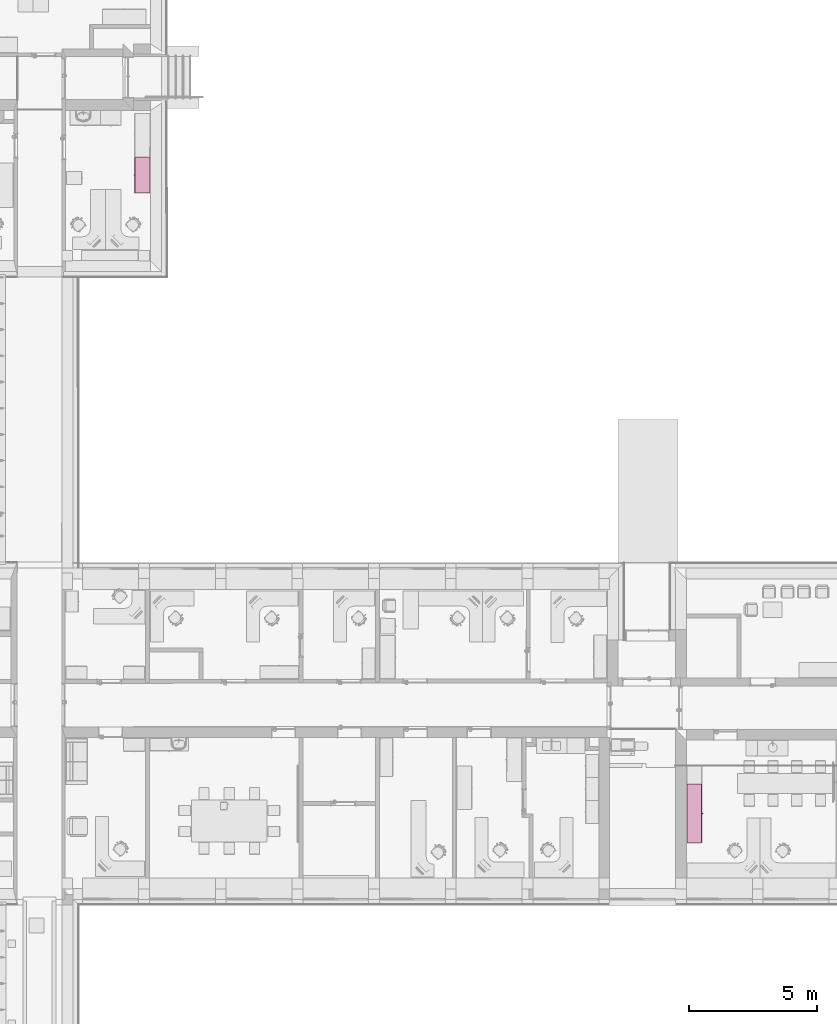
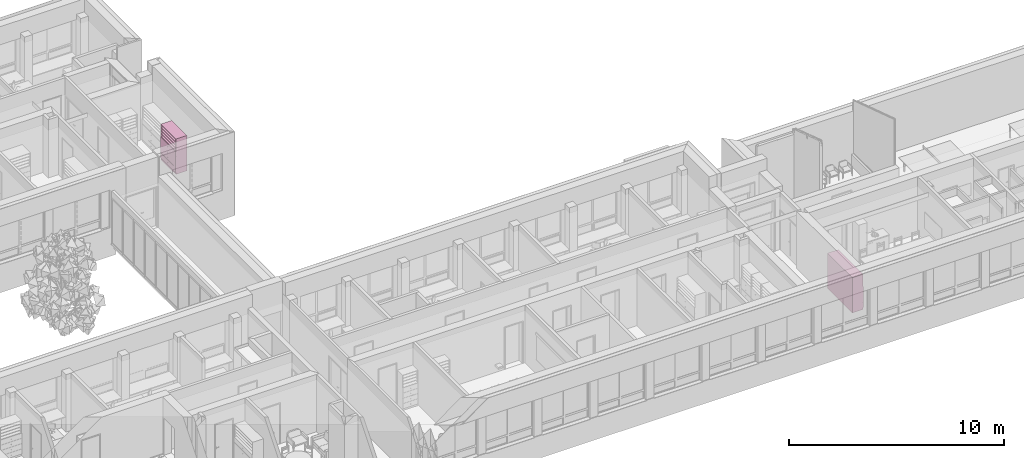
# One storey, part 171 of 194: 2 furnishings.
"""IFC2X3 building model written with IfcOpenShell, lengths in millimetres."""

from ifc_helpers import new_model, entity, si_unit, converted_unit, derived_unit, money_unit, direction, frame, origin_with_axes, place, context, subcontext, project, spatial, faceted_brep, type_object, element, save


model = new_model("IFC2X3")

# Units and contexts
model_context = context("Model", 3, precision=1e-05, world=origin_with_axes(), true_north=direction((0.0, 1.0)))
body_context = subcontext(model_context, "Body", "Model", "MODEL_VIEW")
ifc_project = project(units=[si_unit("LENGTHUNIT", "METRE", prefix="MILLI"), si_unit("AREAUNIT", "SQUARE_METRE"), si_unit("VOLUMEUNIT", "CUBIC_METRE"), converted_unit("PLANEANGLEUNIT", "DEGREE", entity("IfcPlaneAngleMeasure", 0.0174532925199), si_unit("PLANEANGLEUNIT", "RADIAN"), dimensions=[0, 0, 0, 0, 0, 0, 0]), si_unit("SOLIDANGLEUNIT", "STERADIAN"), money_unit("EUR"), converted_unit("TIMEUNIT", "Year", entity("IfcTimeMeasure", 31556926.0), si_unit("TIMEUNIT", "SECOND"), dimensions=[0, 0, 1, 0, 0, 0, 0]), si_unit("MASSUNIT", "GRAM", prefix="KILO"), si_unit("THERMODYNAMICTEMPERATUREUNIT", "DEGREE_CELSIUS"), si_unit("LUMINOUSINTENSITYUNIT", "LUMEN"), si_unit("ENERGYUNIT", "JOULE", prefix="MEGA"), derived_unit("THERMALCONDUCTANCEUNIT", [(si_unit("POWERUNIT", "WATT"), 1), (si_unit("LENGTHUNIT", "METRE"), -1), (si_unit("THERMODYNAMICTEMPERATUREUNIT", "KELVIN"), -1)]), derived_unit("SPECIFICHEATCAPACITYUNIT", [(si_unit("ENERGYUNIT", "JOULE"), 1), (si_unit("MASSUNIT", "GRAM", prefix="KILO"), -1), (si_unit("THERMODYNAMICTEMPERATUREUNIT", "KELVIN"), -1)]), derived_unit("MASSDENSITYUNIT", [(si_unit("MASSUNIT", "GRAM", prefix="KILO"), 1), (si_unit("VOLUMEUNIT", "CUBIC_METRE"), -1)])], contexts=[model_context])

# Site, building, storey
site_placement = place(None, origin_with_axes())
site = spatial("IfcSite", under=ifc_project, at=site_placement, Name="Site", CompositionType="ELEMENT")
building_placement = place(site_placement, origin_with_axes())
building = spatial("IfcBuilding", under=site, at=building_placement, Name="Building", CompositionType="ELEMENT")
storey_placement = place(building_placement, frame((0.0, 0.0, 3000.0), z_axis=(0.0, 0.0, 1.0), x_axis=(1.0, 0.0, 0.0)))
storey = spatial("IfcBuildingStorey", under=building, at=storey_placement, Name="2 KORRUS", CompositionType="ELEMENT", Elevation=3000.0)

# Furnishings
furnishing_element_type_1 = type_object("IfcFurnishingElementType", Name="Model Element 137")
furnishing_1_placement = place(storey_placement, frame((64775.9215281, 36561.5080874, 0.0), z_axis=(0.0, 0.0, 1.0), x_axis=(0.00064265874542, 0.999999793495, 0.0)))
element("IfcFurnishingElement", 1, at=furnishing_1_placement, inside=storey, type_object=furnishing_element_type_1, Name="FU - 001", context=body_context, shape_type="Brep", body=[
    faceted_brep([(2300.0, 19.0, 0.0), (0.0, 19.0, 0.0), (0.0, 599.894418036, 0.0), (2300.0, 599.894418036, 0.0), (2300.0, 19.0, 100.0), (0.0, 19.0, 100.0), (0.0, 599.894418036, 100.0), (2300.0, 599.894418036, 100.0)], [[[0, 1, 2, 3]], [[1, 0, 4, 5]], [[2, 1, 5, 6]], [[3, 2, 6, 7]], [[0, 3, 7, 4]], [[5, 4, 7, 6]]]),
    faceted_brep([(19.0, 599.894418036, 119.0), (19.0, 580.894418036, 119.0), (19.0, 580.894418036, 1981.0), (19.0, 599.894418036, 1981.0), (2281.0, 599.894418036, 119.0), (2281.0, 580.894418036, 119.0), (2281.0, 580.894418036, 1981.0), (2281.0, 599.894418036, 1981.0)], [[[0, 1, 2, 3]], [[0, 4, 5, 1]], [[1, 5, 6, 2]], [[3, 2, 6, 7]], [[4, 0, 3, 7]], [[5, 4, 7, 6]]]),
    faceted_brep([(2300.0, 19.0, 100.0), (2281.0, 19.0, 100.0), (2281.0, 599.894418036, 100.0), (2300.0, 599.894418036, 100.0), (2300.0, 19.0, 2000.0), (2281.0, 19.0, 2000.0), (2281.0, 599.894418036, 2000.0), (2300.0, 599.894418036, 2000.0)], [[[0, 1, 2, 3]], [[1, 0, 4, 5]], [[2, 1, 5, 6]], [[3, 2, 6, 7]], [[0, 3, 7, 4]], [[5, 4, 7, 6]]]),
    faceted_brep([(19.0, 19.0, 100.0), (0.0, 19.0, 100.0), (0.0, 599.894418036, 100.0), (19.0, 599.894418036, 100.0), (19.0, 19.0, 2000.0), (0.0, 19.0, 2000.0), (0.0, 599.894418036, 2000.0), (19.0, 599.894418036, 2000.0)], [[[0, 1, 2, 3]], [[1, 0, 4, 5]], [[2, 1, 5, 6]], [[3, 2, 6, 7]], [[0, 3, 7, 4]], [[5, 4, 7, 6]]]),
    faceted_brep([(2281.0, 19.0, 100.0), (19.0, 19.0, 100.0), (19.0, 599.894418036, 100.0), (2281.0, 599.894418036, 100.0), (2281.0, 19.0, 119.0), (19.0, 19.0, 119.0), (19.0, 599.894418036, 119.0), (2281.0, 599.894418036, 119.0)], [[[0, 1, 2, 3]], [[1, 0, 4, 5]], [[2, 1, 5, 6]], [[3, 2, 6, 7]], [[0, 3, 7, 4]], [[5, 4, 7, 6]]]),
    faceted_brep([(2281.0, 19.0, 1981.0), (19.0, 19.0, 1981.0), (19.0, 599.894418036, 1981.0), (2281.0, 599.894418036, 1981.0), (2281.0, 19.0, 2000.0), (19.0, 19.0, 2000.0), (19.0, 599.894418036, 2000.0), (2281.0, 599.894418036, 2000.0)], [[[0, 1, 2, 3]], [[1, 0, 4, 5]], [[2, 1, 5, 6]], [[3, 2, 6, 7]], [[0, 3, 7, 4]], [[5, 4, 7, 6]]]),
    faceted_brep([(5.0, 19.0, 105.0), (2295.0, 19.0, 105.0), (2295.0, 0.0, 105.0), (5.0, 0.0, 105.0), (5.0, 19.0, 395.0), (2295.0, 19.0, 395.0), (2295.0, 0.0, 395.0), (5.0, 0.0, 395.0)], [[[0, 1, 2, 3]], [[0, 4, 5, 1]], [[1, 5, 6, 2]], [[3, 2, 6, 7]], [[4, 0, 3, 7]], [[5, 4, 7, 6]]]),
    faceted_brep([(1160.39230485, 0.0, 244.0), (1156.0, 0.0, 239.607695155), (1150.0, 0.0, 238.0), (1144.0, 0.0, 239.607695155), (1139.60769515, 0.0, 244.0), (1138.0, 0.0, 250.0), (1139.60769515, 0.0, 256.0), (1144.0, 0.0, 260.392304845), (1150.0, 0.0, 262.0), (1156.0, 0.0, 260.392304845), (1160.39230485, 0.0, 256.0), (1162.0, 0.0, 250.0), (1160.39230485, -25.0, 244.0), (1156.0, -25.0, 239.607695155), (1150.0, -25.0, 238.0), (1144.0, -25.0, 239.607695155), (1139.60769515, -25.0, 244.0), (1138.0, -25.0, 250.0), (1139.60769515, -25.0, 256.0), (1144.0, -25.0, 260.392304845), (1150.0, -25.0, 262.0), (1156.0, -25.0, 260.392304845), (1160.39230485, -25.0, 256.0), (1162.0, -25.0, 250.0)], [[[0, 1, 2, 3, 4, 5, 6, 7, 8, 9, 10, 11]], [[1, 0, 12, 13]], [[2, 1, 13, 14]], [[3, 2, 14, 15]], [[4, 3, 15, 16]], [[5, 4, 16, 17]], [[6, 5, 17, 18]], [[7, 6, 18, 19]], [[8, 7, 19, 20]], [[9, 8, 20, 21]], [[10, 9, 21, 22]], [[11, 10, 22, 23]], [[0, 11, 23, 12]], [[12, 23, 22, 21, 20, 19, 18, 17, 16, 15, 14, 13]]]),
    faceted_brep([(5.0, 19.0, 405.0), (2295.0, 19.0, 405.0), (2295.0, 0.0, 405.0), (5.0, 0.0, 405.0), (5.0, 19.0, 695.0), (2295.0, 19.0, 695.0), (2295.0, 0.0, 695.0), (5.0, 0.0, 695.0)], [[[0, 1, 2, 3]], [[0, 4, 5, 1]], [[1, 5, 6, 2]], [[3, 2, 6, 7]], [[4, 0, 3, 7]], [[5, 4, 7, 6]]]),
    faceted_brep([(1160.39230485, 0.0, 544.0), (1156.0, 0.0, 539.607695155), (1150.0, 0.0, 538.0), (1144.0, 0.0, 539.607695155), (1139.60769515, 0.0, 544.0), (1138.0, 0.0, 550.0), (1139.60769515, 0.0, 556.0), (1144.0, 0.0, 560.392304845), (1150.0, 0.0, 562.0), (1156.0, 0.0, 560.392304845), (1160.39230485, 0.0, 556.0), (1162.0, 0.0, 550.0), (1160.39230485, -25.0, 544.0), (1156.0, -25.0, 539.607695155), (1150.0, -25.0, 538.0), (1144.0, -25.0, 539.607695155), (1139.60769515, -25.0, 544.0), (1138.0, -25.0, 550.0), (1139.60769515, -25.0, 556.0), (1144.0, -25.0, 560.392304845), (1150.0, -25.0, 562.0), (1156.0, -25.0, 560.392304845), (1160.39230485, -25.0, 556.0), (1162.0, -25.0, 550.0)], [[[0, 1, 2, 3, 4, 5, 6, 7, 8, 9, 10, 11]], [[1, 0, 12, 13]], [[2, 1, 13, 14]], [[3, 2, 14, 15]], [[4, 3, 15, 16]], [[5, 4, 16, 17]], [[6, 5, 17, 18]], [[7, 6, 18, 19]], [[8, 7, 19, 20]], [[9, 8, 20, 21]], [[10, 9, 21, 22]], [[11, 10, 22, 23]], [[0, 11, 23, 12]], [[12, 23, 22, 21, 20, 19, 18, 17, 16, 15, 14, 13]]]),
    faceted_brep([(5.0, 19.0, 705.0), (2295.0, 19.0, 705.0), (2295.0, 0.0, 705.0), (5.0, 0.0, 705.0), (5.0, 19.0, 995.0), (2295.0, 19.0, 995.0), (2295.0, 0.0, 995.0), (5.0, 0.0, 995.0)], [[[0, 1, 2, 3]], [[0, 4, 5, 1]], [[1, 5, 6, 2]], [[3, 2, 6, 7]], [[4, 0, 3, 7]], [[5, 4, 7, 6]]]),
    faceted_brep([(1160.39230485, 0.0, 844.0), (1156.0, 0.0, 839.607695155), (1150.0, 0.0, 838.0), (1144.0, 0.0, 839.607695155), (1139.60769515, 0.0, 844.0), (1138.0, 0.0, 850.0), (1139.60769515, 0.0, 856.0), (1144.0, 0.0, 860.392304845), (1150.0, 0.0, 862.0), (1156.0, 0.0, 860.392304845), (1160.39230485, 0.0, 856.0), (1162.0, 0.0, 850.0), (1160.39230485, -25.0, 844.0), (1156.0, -25.0, 839.607695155), (1150.0, -25.0, 838.0), (1144.0, -25.0, 839.607695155), (1139.60769515, -25.0, 844.0), (1138.0, -25.0, 850.0), (1139.60769515, -25.0, 856.0), (1144.0, -25.0, 860.392304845), (1150.0, -25.0, 862.0), (1156.0, -25.0, 860.392304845), (1160.39230485, -25.0, 856.0), (1162.0, -25.0, 850.0)], [[[0, 1, 2, 3, 4, 5, 6, 7, 8, 9, 10, 11]], [[1, 0, 12, 13]], [[2, 1, 13, 14]], [[3, 2, 14, 15]], [[4, 3, 15, 16]], [[5, 4, 16, 17]], [[6, 5, 17, 18]], [[7, 6, 18, 19]], [[8, 7, 19, 20]], [[9, 8, 20, 21]], [[10, 9, 21, 22]], [[11, 10, 22, 23]], [[0, 11, 23, 12]], [[12, 23, 22, 21, 20, 19, 18, 17, 16, 15, 14, 13]]]),
    faceted_brep([(5.0, 19.0, 1005.0), (2295.0, 19.0, 1005.0), (2295.0, 0.0, 1005.0), (5.0, 0.0, 1005.0), (5.0, 19.0, 1295.0), (2295.0, 19.0, 1295.0), (2295.0, 0.0, 1295.0), (5.0, 0.0, 1295.0)], [[[0, 1, 2, 3]], [[0, 4, 5, 1]], [[1, 5, 6, 2]], [[3, 2, 6, 7]], [[4, 0, 3, 7]], [[5, 4, 7, 6]]]),
    faceted_brep([(1160.39230485, 0.0, 1144.0), (1156.0, 0.0, 1139.60769515), (1150.0, 0.0, 1138.0), (1144.0, 0.0, 1139.60769515), (1139.60769515, 0.0, 1144.0), (1138.0, 0.0, 1150.0), (1139.60769515, 0.0, 1156.0), (1144.0, 0.0, 1160.39230485), (1150.0, 0.0, 1162.0), (1156.0, 0.0, 1160.39230485), (1160.39230485, 0.0, 1156.0), (1162.0, 0.0, 1150.0), (1160.39230485, -25.0, 1144.0), (1156.0, -25.0, 1139.60769515), (1150.0, -25.0, 1138.0), (1144.0, -25.0, 1139.60769515), (1139.60769515, -25.0, 1144.0), (1138.0, -25.0, 1150.0), (1139.60769515, -25.0, 1156.0), (1144.0, -25.0, 1160.39230485), (1150.0, -25.0, 1162.0), (1156.0, -25.0, 1160.39230485), (1160.39230485, -25.0, 1156.0), (1162.0, -25.0, 1150.0)], [[[0, 1, 2, 3, 4, 5, 6, 7, 8, 9, 10, 11]], [[1, 0, 12, 13]], [[2, 1, 13, 14]], [[3, 2, 14, 15]], [[4, 3, 15, 16]], [[5, 4, 16, 17]], [[6, 5, 17, 18]], [[7, 6, 18, 19]], [[8, 7, 19, 20]], [[9, 8, 20, 21]], [[10, 9, 21, 22]], [[11, 10, 22, 23]], [[0, 11, 23, 12]], [[12, 23, 22, 21, 20, 19, 18, 17, 16, 15, 14, 13]]]),
    faceted_brep([(19.0, 19.0, 390.5), (2281.0, 19.0, 390.5), (2281.0, 19.0, 409.5), (19.0, 19.0, 409.5), (19.0, 580.894418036, 390.5), (2281.0, 580.894418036, 390.5), (2281.0, 580.894418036, 409.5), (19.0, 580.894418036, 409.5)], [[[0, 1, 2, 3]], [[0, 4, 5, 1]], [[1, 5, 6, 2]], [[3, 2, 6, 7]], [[4, 0, 3, 7]], [[5, 4, 7, 6]]]),
    faceted_brep([(19.0, 19.0, 690.5), (2281.0, 19.0, 690.5), (2281.0, 19.0, 709.5), (19.0, 19.0, 709.5), (19.0, 580.894418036, 690.5), (2281.0, 580.894418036, 690.5), (2281.0, 580.894418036, 709.5), (19.0, 580.894418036, 709.5)], [[[0, 1, 2, 3]], [[0, 4, 5, 1]], [[1, 5, 6, 2]], [[3, 2, 6, 7]], [[4, 0, 3, 7]], [[5, 4, 7, 6]]]),
    faceted_brep([(19.0, 19.0, 990.5), (2281.0, 19.0, 990.5), (2281.0, 19.0, 1009.5), (19.0, 19.0, 1009.5), (19.0, 580.894418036, 990.5), (2281.0, 580.894418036, 990.5), (2281.0, 580.894418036, 1009.5), (19.0, 580.894418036, 1009.5)], [[[0, 1, 2, 3]], [[0, 4, 5, 1]], [[1, 5, 6, 2]], [[3, 2, 6, 7]], [[4, 0, 3, 7]], [[5, 4, 7, 6]]]),
    faceted_brep([(19.0, 19.0, 1290.5), (2281.0, 19.0, 1290.5), (2281.0, 19.0, 1309.5), (19.0, 19.0, 1309.5), (19.0, 580.894418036, 1290.5), (2281.0, 580.894418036, 1290.5), (2281.0, 580.894418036, 1309.5), (19.0, 580.894418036, 1309.5)], [[[0, 1, 2, 3]], [[0, 4, 5, 1]], [[1, 5, 6, 2]], [[3, 2, 6, 7]], [[4, 0, 3, 7]], [[5, 4, 7, 6]]]),
    faceted_brep([(2281.0, 19.0, 1463.125), (19.0, 19.0, 1463.125), (19.0, 580.894418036, 1463.125), (2281.0, 580.894418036, 1463.125), (2281.0, 19.0, 1482.125), (19.0, 19.0, 1482.125), (19.0, 580.894418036, 1482.125), (2281.0, 580.894418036, 1482.125)], [[[0, 1, 2, 3]], [[1, 0, 4, 5]], [[2, 1, 5, 6]], [[3, 2, 6, 7]], [[0, 3, 7, 4]], [[5, 4, 7, 6]]]),
    faceted_brep([(2281.0, 19.0, 1635.75), (19.0, 19.0, 1635.75), (19.0, 580.894418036, 1635.75), (2281.0, 580.894418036, 1635.75), (2281.0, 19.0, 1654.75), (19.0, 19.0, 1654.75), (19.0, 580.894418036, 1654.75), (2281.0, 580.894418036, 1654.75)], [[[0, 1, 2, 3]], [[1, 0, 4, 5]], [[2, 1, 5, 6]], [[3, 2, 6, 7]], [[0, 3, 7, 4]], [[5, 4, 7, 6]]]),
    faceted_brep([(2281.0, 19.0, 1808.375), (19.0, 19.0, 1808.375), (19.0, 580.894418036, 1808.375), (2281.0, 580.894418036, 1808.375), (2281.0, 19.0, 1827.375), (19.0, 19.0, 1827.375), (19.0, 580.894418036, 1827.375), (2281.0, 580.894418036, 1827.375)], [[[0, 1, 2, 3]], [[1, 0, 4, 5]], [[2, 1, 5, 6]], [[3, 2, 6, 7]], [[0, 3, 7, 4]], [[5, 4, 7, 6]]]),
])
furnishing_element_type_2 = type_object("IfcFurnishingElementType", Name="Model Element 42")
furnishing_2_placement = place(storey_placement, frame((42571.72021, 63381.1923782, 0.0), z_axis=(0.0, 0.0, 1.0), x_axis=(-0.00064265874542, -0.999999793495, 0.0)))
element("IfcFurnishingElement", 2, at=furnishing_2_placement, inside=storey, type_object=furnishing_element_type_2, Name="FU - 001", context=body_context, shape_type="Brep", body=[
    faceted_brep([(1400.0, 19.0, 0.0), (0.0, 19.0, 0.0), (0.0, 599.5931731, 0.0), (1400.0, 599.5931731, 0.0), (1400.0, 19.0, 100.0), (0.0, 19.0, 100.0), (0.0, 599.5931731, 100.0), (1400.0, 599.5931731, 100.0)], [[[0, 1, 2, 3]], [[1, 0, 4, 5]], [[2, 1, 5, 6]], [[3, 2, 6, 7]], [[0, 3, 7, 4]], [[5, 4, 7, 6]]]),
    faceted_brep([(19.0, 599.5931731, 119.0), (19.0, 580.5931731, 119.0), (19.0, 580.5931731, 1981.0), (19.0, 599.5931731, 1981.0), (1381.0, 599.5931731, 119.0), (1381.0, 580.5931731, 119.0), (1381.0, 580.5931731, 1981.0), (1381.0, 599.5931731, 1981.0)], [[[0, 1, 2, 3]], [[0, 4, 5, 1]], [[1, 5, 6, 2]], [[3, 2, 6, 7]], [[4, 0, 3, 7]], [[5, 4, 7, 6]]]),
    faceted_brep([(1400.0, 19.0, 100.0), (1381.0, 19.0, 100.0), (1381.0, 599.5931731, 100.0), (1400.0, 599.5931731, 100.0), (1400.0, 19.0, 2000.0), (1381.0, 19.0, 2000.0), (1381.0, 599.5931731, 2000.0), (1400.0, 599.5931731, 2000.0)], [[[0, 1, 2, 3]], [[1, 0, 4, 5]], [[2, 1, 5, 6]], [[3, 2, 6, 7]], [[0, 3, 7, 4]], [[5, 4, 7, 6]]]),
    faceted_brep([(19.0, 19.0, 100.0), (0.0, 19.0, 100.0), (0.0, 599.5931731, 100.0), (19.0, 599.5931731, 100.0), (19.0, 19.0, 2000.0), (0.0, 19.0, 2000.0), (0.0, 599.5931731, 2000.0), (19.0, 599.5931731, 2000.0)], [[[0, 1, 2, 3]], [[1, 0, 4, 5]], [[2, 1, 5, 6]], [[3, 2, 6, 7]], [[0, 3, 7, 4]], [[5, 4, 7, 6]]]),
    faceted_brep([(1381.0, 19.0, 100.0), (19.0, 19.0, 100.0), (19.0, 599.5931731, 100.0), (1381.0, 599.5931731, 100.0), (1381.0, 19.0, 119.0), (19.0, 19.0, 119.0), (19.0, 599.5931731, 119.0), (1381.0, 599.5931731, 119.0)], [[[0, 1, 2, 3]], [[1, 0, 4, 5]], [[2, 1, 5, 6]], [[3, 2, 6, 7]], [[0, 3, 7, 4]], [[5, 4, 7, 6]]]),
    faceted_brep([(1381.0, 19.0, 1981.0), (19.0, 19.0, 1981.0), (19.0, 599.5931731, 1981.0), (1381.0, 599.5931731, 1981.0), (1381.0, 19.0, 2000.0), (19.0, 19.0, 2000.0), (19.0, 599.5931731, 2000.0), (1381.0, 599.5931731, 2000.0)], [[[0, 1, 2, 3]], [[1, 0, 4, 5]], [[2, 1, 5, 6]], [[3, 2, 6, 7]], [[0, 3, 7, 4]], [[5, 4, 7, 6]]]),
    faceted_brep([(5.0, 19.0, 105.0), (1395.0, 19.0, 105.0), (1395.0, 0.0, 105.0), (5.0, 0.0, 105.0), (5.0, 19.0, 395.0), (1395.0, 19.0, 395.0), (1395.0, 0.0, 395.0), (5.0, 0.0, 395.0)], [[[0, 1, 2, 3]], [[0, 4, 5, 1]], [[1, 5, 6, 2]], [[3, 2, 6, 7]], [[4, 0, 3, 7]], [[5, 4, 7, 6]]]),
    faceted_brep([(710.392304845, 0.0, 244.0), (706.0, 0.0, 239.607695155), (700.0, 0.0, 238.0), (694.0, 0.0, 239.607695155), (689.607695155, 0.0, 244.0), (688.0, 0.0, 250.0), (689.607695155, 0.0, 256.0), (694.0, 0.0, 260.392304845), (700.0, 0.0, 262.0), (706.0, 0.0, 260.392304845), (710.392304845, 0.0, 256.0), (712.0, 0.0, 250.0), (710.392304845, -25.0, 244.0), (706.0, -25.0, 239.607695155), (700.0, -25.0, 238.0), (694.0, -25.0, 239.607695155), (689.607695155, -25.0, 244.0), (688.0, -25.0, 250.0), (689.607695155, -25.0, 256.0), (694.0, -25.0, 260.392304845), (700.0, -25.0, 262.0), (706.0, -25.0, 260.392304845), (710.392304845, -25.0, 256.0), (712.0, -25.0, 250.0)], [[[0, 1, 2, 3, 4, 5, 6, 7, 8, 9, 10, 11]], [[1, 0, 12, 13]], [[2, 1, 13, 14]], [[3, 2, 14, 15]], [[4, 3, 15, 16]], [[5, 4, 16, 17]], [[6, 5, 17, 18]], [[7, 6, 18, 19]], [[8, 7, 19, 20]], [[9, 8, 20, 21]], [[10, 9, 21, 22]], [[11, 10, 22, 23]], [[0, 11, 23, 12]], [[12, 23, 22, 21, 20, 19, 18, 17, 16, 15, 14, 13]]]),
    faceted_brep([(5.0, 19.0, 405.0), (1395.0, 19.0, 405.0), (1395.0, 0.0, 405.0), (5.0, 0.0, 405.0), (5.0, 19.0, 695.0), (1395.0, 19.0, 695.0), (1395.0, 0.0, 695.0), (5.0, 0.0, 695.0)], [[[0, 1, 2, 3]], [[0, 4, 5, 1]], [[1, 5, 6, 2]], [[3, 2, 6, 7]], [[4, 0, 3, 7]], [[5, 4, 7, 6]]]),
    faceted_brep([(710.392304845, 0.0, 544.0), (706.0, 0.0, 539.607695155), (700.0, 0.0, 538.0), (694.0, 0.0, 539.607695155), (689.607695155, 0.0, 544.0), (688.0, 0.0, 550.0), (689.607695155, 0.0, 556.0), (694.0, 0.0, 560.392304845), (700.0, 0.0, 562.0), (706.0, 0.0, 560.392304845), (710.392304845, 0.0, 556.0), (712.0, 0.0, 550.0), (710.392304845, -25.0, 544.0), (706.0, -25.0, 539.607695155), (700.0, -25.0, 538.0), (694.0, -25.0, 539.607695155), (689.607695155, -25.0, 544.0), (688.0, -25.0, 550.0), (689.607695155, -25.0, 556.0), (694.0, -25.0, 560.392304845), (700.0, -25.0, 562.0), (706.0, -25.0, 560.392304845), (710.392304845, -25.0, 556.0), (712.0, -25.0, 550.0)], [[[0, 1, 2, 3, 4, 5, 6, 7, 8, 9, 10, 11]], [[1, 0, 12, 13]], [[2, 1, 13, 14]], [[3, 2, 14, 15]], [[4, 3, 15, 16]], [[5, 4, 16, 17]], [[6, 5, 17, 18]], [[7, 6, 18, 19]], [[8, 7, 19, 20]], [[9, 8, 20, 21]], [[10, 9, 21, 22]], [[11, 10, 22, 23]], [[0, 11, 23, 12]], [[12, 23, 22, 21, 20, 19, 18, 17, 16, 15, 14, 13]]]),
    faceted_brep([(5.0, 19.0, 705.0), (1395.0, 19.0, 705.0), (1395.0, 0.0, 705.0), (5.0, 0.0, 705.0), (5.0, 19.0, 995.0), (1395.0, 19.0, 995.0), (1395.0, 0.0, 995.0), (5.0, 0.0, 995.0)], [[[0, 1, 2, 3]], [[0, 4, 5, 1]], [[1, 5, 6, 2]], [[3, 2, 6, 7]], [[4, 0, 3, 7]], [[5, 4, 7, 6]]]),
    faceted_brep([(710.392304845, 0.0, 844.0), (706.0, 0.0, 839.607695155), (700.0, 0.0, 838.0), (694.0, 0.0, 839.607695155), (689.607695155, 0.0, 844.0), (688.0, 0.0, 850.0), (689.607695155, 0.0, 856.0), (694.0, 0.0, 860.392304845), (700.0, 0.0, 862.0), (706.0, 0.0, 860.392304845), (710.392304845, 0.0, 856.0), (712.0, 0.0, 850.0), (710.392304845, -25.0, 844.0), (706.0, -25.0, 839.607695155), (700.0, -25.0, 838.0), (694.0, -25.0, 839.607695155), (689.607695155, -25.0, 844.0), (688.0, -25.0, 850.0), (689.607695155, -25.0, 856.0), (694.0, -25.0, 860.392304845), (700.0, -25.0, 862.0), (706.0, -25.0, 860.392304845), (710.392304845, -25.0, 856.0), (712.0, -25.0, 850.0)], [[[0, 1, 2, 3, 4, 5, 6, 7, 8, 9, 10, 11]], [[1, 0, 12, 13]], [[2, 1, 13, 14]], [[3, 2, 14, 15]], [[4, 3, 15, 16]], [[5, 4, 16, 17]], [[6, 5, 17, 18]], [[7, 6, 18, 19]], [[8, 7, 19, 20]], [[9, 8, 20, 21]], [[10, 9, 21, 22]], [[11, 10, 22, 23]], [[0, 11, 23, 12]], [[12, 23, 22, 21, 20, 19, 18, 17, 16, 15, 14, 13]]]),
    faceted_brep([(5.0, 19.0, 1005.0), (1395.0, 19.0, 1005.0), (1395.0, 0.0, 1005.0), (5.0, 0.0, 1005.0), (5.0, 19.0, 1295.0), (1395.0, 19.0, 1295.0), (1395.0, 0.0, 1295.0), (5.0, 0.0, 1295.0)], [[[0, 1, 2, 3]], [[0, 4, 5, 1]], [[1, 5, 6, 2]], [[3, 2, 6, 7]], [[4, 0, 3, 7]], [[5, 4, 7, 6]]]),
    faceted_brep([(710.392304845, 0.0, 1144.0), (706.0, 0.0, 1139.60769515), (700.0, 0.0, 1138.0), (694.0, 0.0, 1139.60769515), (689.607695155, 0.0, 1144.0), (688.0, 0.0, 1150.0), (689.607695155, 0.0, 1156.0), (694.0, 0.0, 1160.39230485), (700.0, 0.0, 1162.0), (706.0, 0.0, 1160.39230485), (710.392304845, 0.0, 1156.0), (712.0, 0.0, 1150.0), (710.392304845, -25.0, 1144.0), (706.0, -25.0, 1139.60769515), (700.0, -25.0, 1138.0), (694.0, -25.0, 1139.60769515), (689.607695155, -25.0, 1144.0), (688.0, -25.0, 1150.0), (689.607695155, -25.0, 1156.0), (694.0, -25.0, 1160.39230485), (700.0, -25.0, 1162.0), (706.0, -25.0, 1160.39230485), (710.392304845, -25.0, 1156.0), (712.0, -25.0, 1150.0)], [[[0, 1, 2, 3, 4, 5, 6, 7, 8, 9, 10, 11]], [[1, 0, 12, 13]], [[2, 1, 13, 14]], [[3, 2, 14, 15]], [[4, 3, 15, 16]], [[5, 4, 16, 17]], [[6, 5, 17, 18]], [[7, 6, 18, 19]], [[8, 7, 19, 20]], [[9, 8, 20, 21]], [[10, 9, 21, 22]], [[11, 10, 22, 23]], [[0, 11, 23, 12]], [[12, 23, 22, 21, 20, 19, 18, 17, 16, 15, 14, 13]]]),
    faceted_brep([(19.0, 19.0, 390.5), (1381.0, 19.0, 390.5), (1381.0, 19.0, 409.5), (19.0, 19.0, 409.5), (19.0, 580.5931731, 390.5), (1381.0, 580.5931731, 390.5), (1381.0, 580.5931731, 409.5), (19.0, 580.5931731, 409.5)], [[[0, 1, 2, 3]], [[0, 4, 5, 1]], [[1, 5, 6, 2]], [[3, 2, 6, 7]], [[4, 0, 3, 7]], [[5, 4, 7, 6]]]),
    faceted_brep([(19.0, 19.0, 690.5), (1381.0, 19.0, 690.5), (1381.0, 19.0, 709.5), (19.0, 19.0, 709.5), (19.0, 580.5931731, 690.5), (1381.0, 580.5931731, 690.5), (1381.0, 580.5931731, 709.5), (19.0, 580.5931731, 709.5)], [[[0, 1, 2, 3]], [[0, 4, 5, 1]], [[1, 5, 6, 2]], [[3, 2, 6, 7]], [[4, 0, 3, 7]], [[5, 4, 7, 6]]]),
    faceted_brep([(19.0, 19.0, 990.5), (1381.0, 19.0, 990.5), (1381.0, 19.0, 1009.5), (19.0, 19.0, 1009.5), (19.0, 580.5931731, 990.5), (1381.0, 580.5931731, 990.5), (1381.0, 580.5931731, 1009.5), (19.0, 580.5931731, 1009.5)], [[[0, 1, 2, 3]], [[0, 4, 5, 1]], [[1, 5, 6, 2]], [[3, 2, 6, 7]], [[4, 0, 3, 7]], [[5, 4, 7, 6]]]),
    faceted_brep([(19.0, 19.0, 1290.5), (1381.0, 19.0, 1290.5), (1381.0, 19.0, 1309.5), (19.0, 19.0, 1309.5), (19.0, 580.5931731, 1290.5), (1381.0, 580.5931731, 1290.5), (1381.0, 580.5931731, 1309.5), (19.0, 580.5931731, 1309.5)], [[[0, 1, 2, 3]], [[0, 4, 5, 1]], [[1, 5, 6, 2]], [[3, 2, 6, 7]], [[4, 0, 3, 7]], [[5, 4, 7, 6]]]),
    faceted_brep([(1381.0, 19.0, 1463.125), (19.0, 19.0, 1463.125), (19.0, 580.5931731, 1463.125), (1381.0, 580.5931731, 1463.125), (1381.0, 19.0, 1482.125), (19.0, 19.0, 1482.125), (19.0, 580.5931731, 1482.125), (1381.0, 580.5931731, 1482.125)], [[[0, 1, 2, 3]], [[1, 0, 4, 5]], [[2, 1, 5, 6]], [[3, 2, 6, 7]], [[0, 3, 7, 4]], [[5, 4, 7, 6]]]),
    faceted_brep([(1381.0, 19.0, 1635.75), (19.0, 19.0, 1635.75), (19.0, 580.5931731, 1635.75), (1381.0, 580.5931731, 1635.75), (1381.0, 19.0, 1654.75), (19.0, 19.0, 1654.75), (19.0, 580.5931731, 1654.75), (1381.0, 580.5931731, 1654.75)], [[[0, 1, 2, 3]], [[1, 0, 4, 5]], [[2, 1, 5, 6]], [[3, 2, 6, 7]], [[0, 3, 7, 4]], [[5, 4, 7, 6]]]),
    faceted_brep([(1381.0, 19.0, 1808.375), (19.0, 19.0, 1808.375), (19.0, 580.5931731, 1808.375), (1381.0, 580.5931731, 1808.375), (1381.0, 19.0, 1827.375), (19.0, 19.0, 1827.375), (19.0, 580.5931731, 1827.375), (1381.0, 580.5931731, 1827.375)], [[[0, 1, 2, 3]], [[1, 0, 4, 5]], [[2, 1, 5, 6]], [[3, 2, 6, 7]], [[0, 3, 7, 4]], [[5, 4, 7, 6]]]),
])

save(model, "model.ifc")
